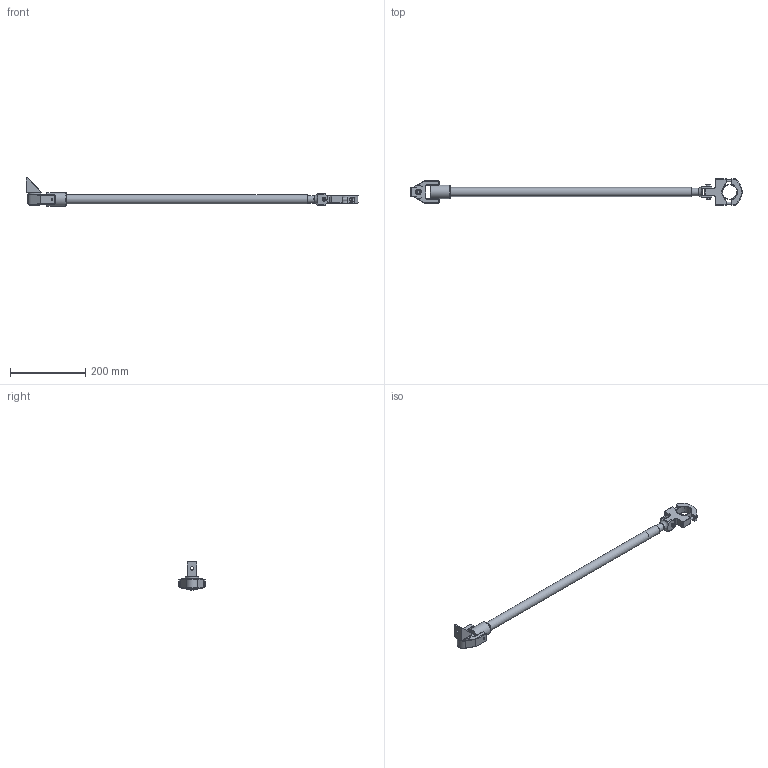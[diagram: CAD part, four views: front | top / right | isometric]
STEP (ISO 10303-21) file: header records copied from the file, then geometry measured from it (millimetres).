
FILE_DESCRIPTION( ( 'Unknown' ), '1' );
FILE_NAME( 'D:/dogabe/Industrie/Industrie 2005/05-14-2721 SCANROTOR/4-1200283_bras DMF 30_2000_3D/4-1200283_bras DMF 30_2000.stp', 'Unknown', ( 'Unknown' ), ( 'Unknown' ), 'PSStep 14.0', 'Unknown', ' ' );
FILE_SCHEMA( ( 'AUTOMOTIVE_DESIGN { 1 0 10303 214 1 1 1 1 }' ) );
Length unit declared in the file: millimetre
Products named in the file (29): Tube 19 Lg 2000; Tube 19,2x20,8-oa1; Tube 14,2x16; Tube 16,2x19 Lg 2000; Tube 24 Lg 2000; Tube 19,2x20,8; Fourreau arrière; Tube 21x24 Lg 2000; Asm Pivot; Pivot S26; CHC M8x30; Chape équilibreur pour DMF30; CHC Epaulé M6-40; Chape de fixation DMF30; Spring retaining ring for 25 shaft; Jonc 14 Lg 2000; Tube 14,2x16-oa2; CHC Epaulé M6-25; H M06 Nyl; Chape avant; Jonc 14 Lg2000; Asm Pince pour DMF30; Placement; CHC M6x45 fileté sous tete; CHC M6x45 fileté sous tete-oa0; Collier; Pince pour DMF30; Assem1; Equerre
Assembly tree (28 placements, depth 3):
  Assem1
    Equerre
    Asm Pivot
      Pivot S26
      CHC M8x30
    Chape équilibreur pour DMF30
      CHC Epaulé M6-40
      Chape de fixation DMF30
      Spring retaining ring for 25 shaft
    Asm Pince pour DMF30
      Placement
      CHC M6x45 fileté sous tete
      CHC M6x45 fileté sous tete-oa0
      Collier
      Pince pour DMF30
    Tube 24 Lg 2000
      Tube 19,2x20,8
      Fourreau arrière
      Tube 21x24 Lg 2000
    Tube 19 Lg 2000
      Tube 19,2x20,8-oa1
      Tube 14,2x16
      Tube 16,2x19 Lg 2000
    Jonc 14 Lg 2000
      Tube 14,2x16-oa2
      CHC Epaulé M6-25
      H M06 Nyl
      Chape avant
      Jonc 14 Lg2000
Bounding box: 882.79 x 70 x 75.25 mm (x, y, z)
Volume: 440846.1 mm3; surface area: 296125.5 mm2
Topology: 22 solids, 22 shells, 371 faces, 810 edges, 501 vertices
Faces by surface type: plane 253, cylinder 82, cone 31, torus 5
Full cylindrical faces by diameter (mm): 2 x2, 3.1 x3, 5 x4, 5.8 x2, 6 x5, 6.5 x2, 6.8 x2, 7 x2, 7.8 x1, 8 x8, 9 x2, 9.547 x1, 10 x2, 13 x3, 14 x3, 14.2 x2, 15 x2, 16 x2, 16.2 x1, 19 x1, 19.2 x2, 20 x1, 20.8 x2, 21 x1, 23.9 x1, 24 x1, 25 x3, 35 x1, 36 x1, 38 x1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
Entity records: 13617 total; most frequent: CARTESIAN_POINT 2458, DIRECTION 1647, ORIENTED_EDGE 1370, EDGE_CURVE 685, AXIS2_PLACEMENT_3D 594, EDGE_LOOP 538, VERTEX_POINT 463, LINE 459
